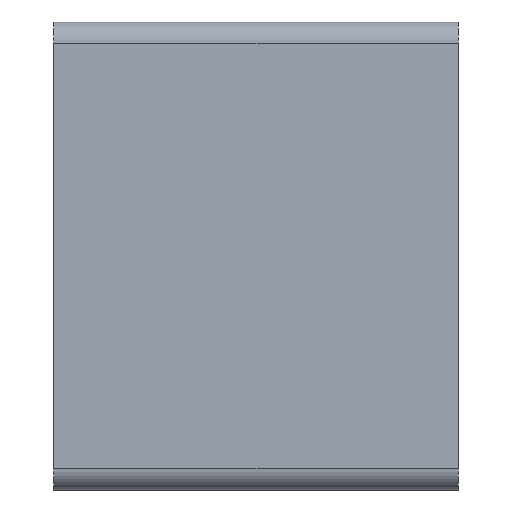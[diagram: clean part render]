
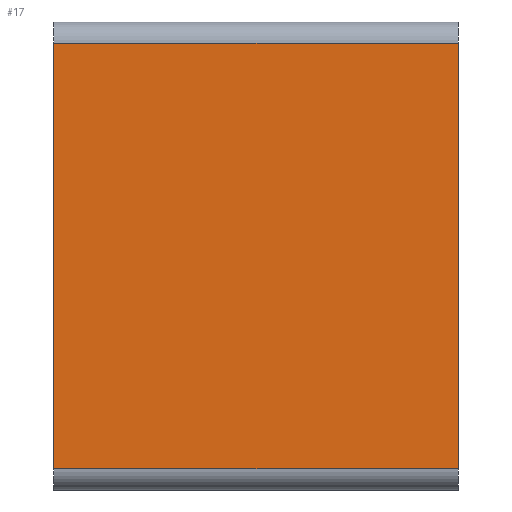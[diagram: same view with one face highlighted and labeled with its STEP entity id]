
A CAD part, left-side view. The second image highlights one B-rep face of the part: STEP entity #17.
In plain terms, the highlighted planar face has unit normal (-1, 0, 0).
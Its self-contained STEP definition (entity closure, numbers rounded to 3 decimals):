
#17 = ADVANCED_FACE('',(#18),#32,.F.);
#18 = FACE_BOUND('',#19,.F.);
#19 = EDGE_LOOP('',(#20,#55,#83,#111));
#20 = ORIENTED_EDGE('',*,*,#21,.F.);
#21 = EDGE_CURVE('',#22,#24,#26,.T.);
#22 = VERTEX_POINT('',#23);
#23 = CARTESIAN_POINT('',(132.,-11.,3.));
#24 = VERTEX_POINT('',#25);
#25 = CARTESIAN_POINT('',(132.,-11.,63.));
#26 = SURFACE_CURVE('',#27,(#31,#43),.PCURVE_S1.);
#27 = LINE('',#28,#29);
#28 = CARTESIAN_POINT('',(132.,-11.,0.));
#29 = VECTOR('',#30,1.);
#30 = DIRECTION('',(0.,0.,1.));
#31 = PCURVE('',#32,#37);
#32 = PLANE('',#33);
#33 = AXIS2_PLACEMENT_3D('',#34,#35,#36);
#34 = CARTESIAN_POINT('',(132.,-11.,0.));
#35 = DIRECTION('',(1.,0.,0.));
#36 = DIRECTION('',(0.,0.,1.));
#37 = DEFINITIONAL_REPRESENTATION('',(#38),#42);
#38 = LINE('',#39,#40);
#39 = CARTESIAN_POINT('',(0.,0.));
#40 = VECTOR('',#41,1.);
#41 = DIRECTION('',(1.,0.));
#42 = ( GEOMETRIC_REPRESENTATION_CONTEXT(2) 
PARAMETRIC_REPRESENTATION_CONTEXT() REPRESENTATION_CONTEXT('2D SPACE',''
  ) );
#43 = PCURVE('',#44,#49);
#44 = PLANE('',#45);
#45 = AXIS2_PLACEMENT_3D('',#46,#47,#48);
#46 = CARTESIAN_POINT('',(132.,-11.,0.));
#47 = DIRECTION('',(0.,1.,0.));
#48 = DIRECTION('',(0.,0.,1.));
#49 = DEFINITIONAL_REPRESENTATION('',(#50),#54);
#50 = LINE('',#51,#52);
#51 = CARTESIAN_POINT('',(0.,0.));
#52 = VECTOR('',#53,1.);
#53 = DIRECTION('',(1.,0.));
#54 = ( GEOMETRIC_REPRESENTATION_CONTEXT(2) 
PARAMETRIC_REPRESENTATION_CONTEXT() REPRESENTATION_CONTEXT('2D SPACE',''
  ) );
#55 = ORIENTED_EDGE('',*,*,#56,.T.);
#56 = EDGE_CURVE('',#22,#57,#59,.T.);
#57 = VERTEX_POINT('',#58);
#58 = CARTESIAN_POINT('',(132.,46.,3.));
#59 = SURFACE_CURVE('',#60,(#64,#71),.PCURVE_S1.);
#60 = LINE('',#61,#62);
#61 = CARTESIAN_POINT('',(132.,-11.,3.));
#62 = VECTOR('',#63,1.);
#63 = DIRECTION('',(0.,1.,0.));
#64 = PCURVE('',#32,#65);
#65 = DEFINITIONAL_REPRESENTATION('',(#66),#70);
#66 = LINE('',#67,#68);
#67 = CARTESIAN_POINT('',(3.,0.));
#68 = VECTOR('',#69,1.);
#69 = DIRECTION('',(0.,-1.));
#70 = ( GEOMETRIC_REPRESENTATION_CONTEXT(2) 
PARAMETRIC_REPRESENTATION_CONTEXT() REPRESENTATION_CONTEXT('2D SPACE',''
  ) );
#71 = PCURVE('',#72,#77);
#72 = CYLINDRICAL_SURFACE('',#73,3.);
#73 = AXIS2_PLACEMENT_3D('',#74,#75,#76);
#74 = CARTESIAN_POINT('',(135.,-11.,3.));
#75 = DIRECTION('',(0.,1.,0.));
#76 = DIRECTION('',(-1.,0.,0.));
#77 = DEFINITIONAL_REPRESENTATION('',(#78),#82);
#78 = LINE('',#79,#80);
#79 = CARTESIAN_POINT('',(-0.,0.));
#80 = VECTOR('',#81,1.);
#81 = DIRECTION('',(-0.,1.));
#82 = ( GEOMETRIC_REPRESENTATION_CONTEXT(2) 
PARAMETRIC_REPRESENTATION_CONTEXT() REPRESENTATION_CONTEXT('2D SPACE',''
  ) );
#83 = ORIENTED_EDGE('',*,*,#84,.T.);
#84 = EDGE_CURVE('',#57,#85,#87,.T.);
#85 = VERTEX_POINT('',#86);
#86 = CARTESIAN_POINT('',(132.,46.,63.));
#87 = SURFACE_CURVE('',#88,(#92,#99),.PCURVE_S1.);
#88 = LINE('',#89,#90);
#89 = CARTESIAN_POINT('',(132.,46.,0.));
#90 = VECTOR('',#91,1.);
#91 = DIRECTION('',(0.,0.,1.));
#92 = PCURVE('',#32,#93);
#93 = DEFINITIONAL_REPRESENTATION('',(#94),#98);
#94 = LINE('',#95,#96);
#95 = CARTESIAN_POINT('',(0.,-57.));
#96 = VECTOR('',#97,1.);
#97 = DIRECTION('',(1.,0.));
#98 = ( GEOMETRIC_REPRESENTATION_CONTEXT(2) 
PARAMETRIC_REPRESENTATION_CONTEXT() REPRESENTATION_CONTEXT('2D SPACE',''
  ) );
#99 = PCURVE('',#100,#105);
#100 = PLANE('',#101);
#101 = AXIS2_PLACEMENT_3D('',#102,#103,#104);
#102 = CARTESIAN_POINT('',(132.,46.,0.));
#103 = DIRECTION('',(0.,1.,0.));
#104 = DIRECTION('',(0.,0.,1.));
#105 = DEFINITIONAL_REPRESENTATION('',(#106),#110);
#106 = LINE('',#107,#108);
#107 = CARTESIAN_POINT('',(0.,0.));
#108 = VECTOR('',#109,1.);
#109 = DIRECTION('',(1.,0.));
#110 = ( GEOMETRIC_REPRESENTATION_CONTEXT(2) 
PARAMETRIC_REPRESENTATION_CONTEXT() REPRESENTATION_CONTEXT('2D SPACE',''
  ) );
#111 = ORIENTED_EDGE('',*,*,#112,.F.);
#112 = EDGE_CURVE('',#24,#85,#113,.T.);
#113 = SURFACE_CURVE('',#114,(#118,#125),.PCURVE_S1.);
#114 = LINE('',#115,#116);
#115 = CARTESIAN_POINT('',(132.,-11.,63.));
#116 = VECTOR('',#117,1.);
#117 = DIRECTION('',(0.,1.,0.));
#118 = PCURVE('',#32,#119);
#119 = DEFINITIONAL_REPRESENTATION('',(#120),#124);
#120 = LINE('',#121,#122);
#121 = CARTESIAN_POINT('',(63.,0.));
#122 = VECTOR('',#123,1.);
#123 = DIRECTION('',(0.,-1.));
#124 = ( GEOMETRIC_REPRESENTATION_CONTEXT(2) 
PARAMETRIC_REPRESENTATION_CONTEXT() REPRESENTATION_CONTEXT('2D SPACE',''
  ) );
#125 = PCURVE('',#126,#131);
#126 = CYLINDRICAL_SURFACE('',#127,3.);
#127 = AXIS2_PLACEMENT_3D('',#128,#129,#130);
#128 = CARTESIAN_POINT('',(135.,-11.,63.));
#129 = DIRECTION('',(0.,1.,0.));
#130 = DIRECTION('',(-1.,0.,0.));
#131 = DEFINITIONAL_REPRESENTATION('',(#132),#136);
#132 = LINE('',#133,#134);
#133 = CARTESIAN_POINT('',(0.,0.));
#134 = VECTOR('',#135,1.);
#135 = DIRECTION('',(0.,1.));
#136 = ( GEOMETRIC_REPRESENTATION_CONTEXT(2) 
PARAMETRIC_REPRESENTATION_CONTEXT() REPRESENTATION_CONTEXT('2D SPACE',''
  ) );
